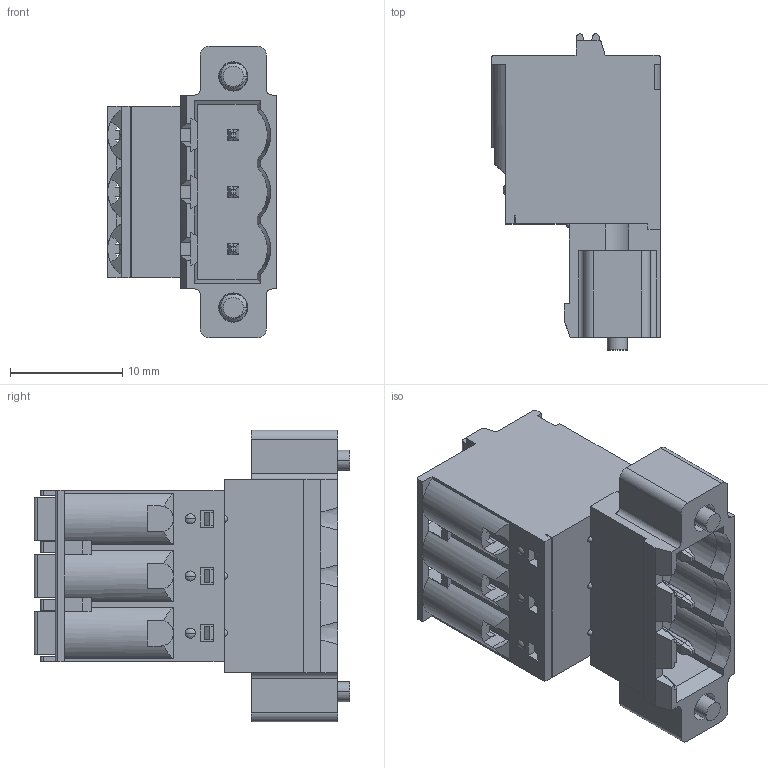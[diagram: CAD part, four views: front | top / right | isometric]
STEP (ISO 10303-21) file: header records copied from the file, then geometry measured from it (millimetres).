
FILE_DESCRIPTION((''),'2;1');
FILE_NAME('3PIN_SW0001','2019-05-29T',('zhenbing.lai'),(''),'CREO PARAMETRIC BY PTC INC, 2016260','CREO PARAMETRIC BY PTC INC, 2016260','');
FILE_SCHEMA(('CONFIG_CONTROL_DESIGN'));
Length unit declared in the file: millimetre
Products named in the file (1): 3PIN_SW0001
Bounding box: 15 x 28.1 x 25.94 mm (x, y, z)
Volume: 4197.7 mm3; surface area: 3365.7 mm2
Topology: 3 solids, 3 shells, 535 faces, 1476 edges, 967 vertices
Faces by surface type: plane 359, cylinder 128, bspline 24, sphere 9, torus 8, cone 7
Entity records: 22395 total; most frequent: CARTESIAN_POINT 9001, ORIENTED_EDGE 2934, DIRECTION 2518, EDGE_CURVE 1467, VECTOR 1002, LINE 1002, VERTEX_POINT 967, AXIS2_PLACEMENT_3D 758
